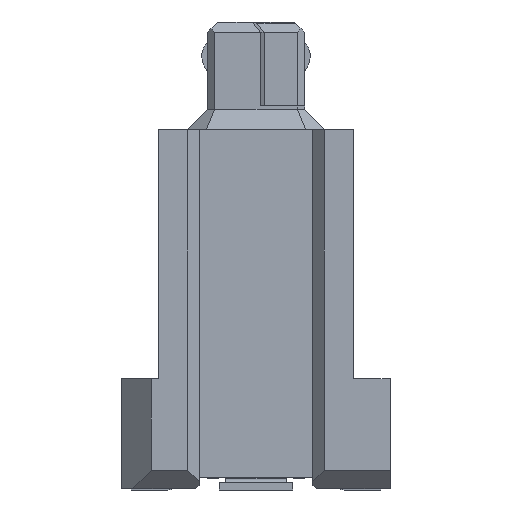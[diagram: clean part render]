
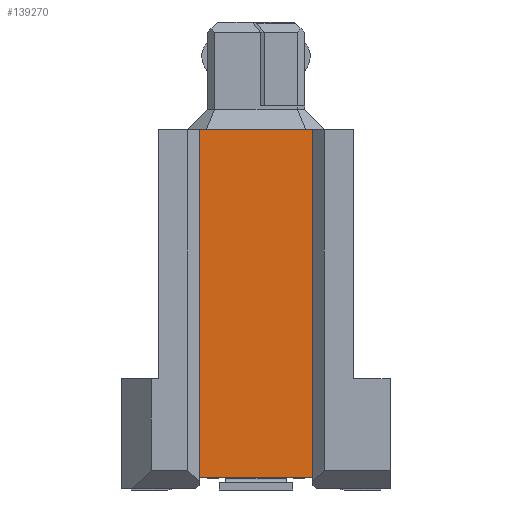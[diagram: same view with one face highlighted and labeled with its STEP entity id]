
A CAD part, left-side view. The second image highlights one B-rep face of the part: STEP entity #139270.
In plain terms, the highlighted planar face has unit normal (-1, 0, 0).
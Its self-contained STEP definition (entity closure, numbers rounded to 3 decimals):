
#87310=CARTESIAN_POINT('',(-10.032,4.41,4.2));
#87320=VERTEX_POINT('',#87310);
#87620=CARTESIAN_POINT('',(-10.032,-5.06,4.2));
#87630=VERTEX_POINT('',#87620);
#87660=CARTESIAN_POINT('',(-10.032,2.,4.2));
#87670=DIRECTION('',(0.,-1.,0.));
#87680=VECTOR('',#87670,1.);
#87690=LINE('',#87660,#87680);
#87700=EDGE_CURVE('',#87320,#87630,#87690,.T.);
#135140=CARTESIAN_POINT('',(-10.032,-5.06,1.1));
#135150=VERTEX_POINT('',#135140);
#135560=CARTESIAN_POINT('',(-10.032,4.41,1.1));
#135570=VERTEX_POINT('',#135560);
#135600=CARTESIAN_POINT('',(-10.032,-0.36,1.1));
#135610=DIRECTION('',(0.,1.,0.));
#135620=VECTOR('',#135610,1.);
#135630=LINE('',#135600,#135620);
#135640=EDGE_CURVE('',#135150,#135570,#135630,.T.);
#139060=CARTESIAN_POINT('',(-10.032,-2.36,5.3));
#139070=DIRECTION('',(-1.,0.,0.));
#139080=DIRECTION('',(0.,1.,0.));
#139090=AXIS2_PLACEMENT_3D('',#139060,#139070,#139080);
#139100=PLANE('',#139090);
#139110=CARTESIAN_POINT('',(-10.032,4.41,0.));
#139120=DIRECTION('',(0.,0.,-1.));
#139130=VECTOR('',#139120,1.);
#139140=LINE('',#139110,#139130);
#139150=EDGE_CURVE('',#87320,#135570,#139140,.T.);
#139160=ORIENTED_EDGE('',*,*,#139150,.T.);
#139170=ORIENTED_EDGE('',*,*,#87700,.F.);
#139180=CARTESIAN_POINT('',(-10.032,-5.06,0.));
#139190=DIRECTION('',(0.,0.,-1.));
#139200=VECTOR('',#139190,1.);
#139210=LINE('',#139180,#139200);
#139220=EDGE_CURVE('',#87630,#135150,#139210,.T.);
#139230=ORIENTED_EDGE('',*,*,#139220,.F.);
#139240=ORIENTED_EDGE('',*,*,#135640,.F.);
#139250=EDGE_LOOP('',(#139240,#139230,#139170,#139160));
#139260=FACE_OUTER_BOUND('',#139250,.T.);
#139270=ADVANCED_FACE('',(#139260),#139100,.T.);
